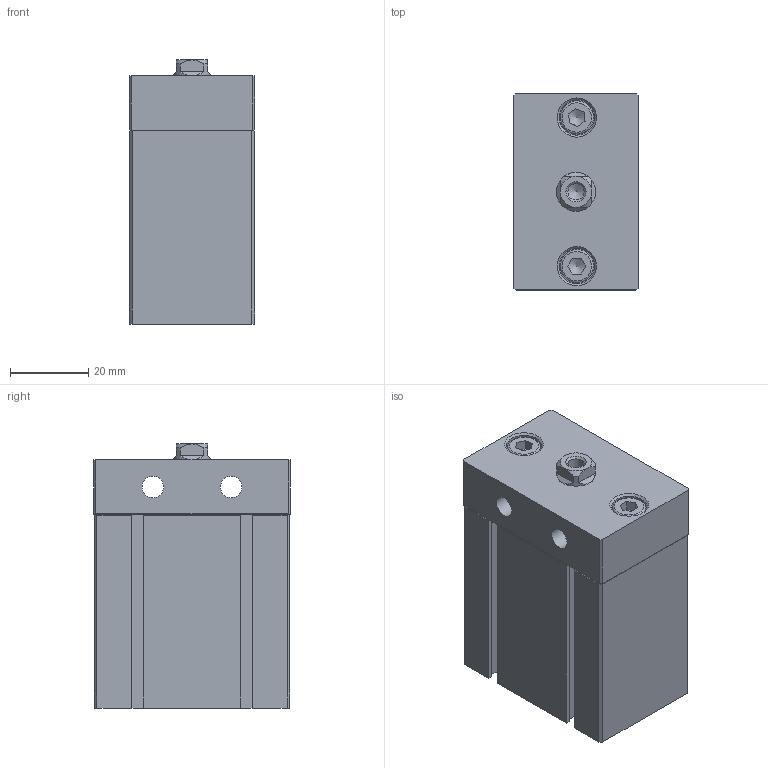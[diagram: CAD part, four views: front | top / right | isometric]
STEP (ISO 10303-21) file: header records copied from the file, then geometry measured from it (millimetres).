
FILE_DESCRIPTION((''),'2;1');
FILE_NAME('I:\3D電子目錄\氣缸\ND\ND\ND25\ND25x20.stp','2007-07-24T19:02:27',('Administrator'),(''),'Autodesk Inventor 11','Autodesk Inventor 11','');
FILE_SCHEMA(('AUTOMOTIVE_DESIGN { 1 0 10303 214 1 1 1 1 }'));
Length unit declared in the file: millimetre
Products named in the file (4): ND25; ISO 4762 M5 x 12; R 形環 28
Assembly tree (4 placements, depth 2):
  ND25
    ND25
    ISO 4762 M5 x 12  x2
    R 形環 28
Bounding box: 32 x 50.1 x 67.5 mm (x, y, z)
Volume: 92908.7 mm3; surface area: 21107.9 mm2
Topology: 5 solids, 5 shells, 167 faces, 389 edges, 247 vertices
Faces by surface type: plane 105, cylinder 25, cone 18, bspline 16, torus 3
Full cylindrical faces by diameter (mm): 1.5 x2, 1.9 x2, 5 x2, 5.5 x2, 8.5 x2, 9 x2, 17 x1, 28 x1, 29.4 x1
Entity records: 4347 total; most frequent: CARTESIAN_POINT 939, DIRECTION 678, ORIENTED_EDGE 626, EDGE_CURVE 313, AXIS2_PLACEMENT_3D 234, VERTEX_POINT 221, EDGE_LOOP 214, VECTOR 210
